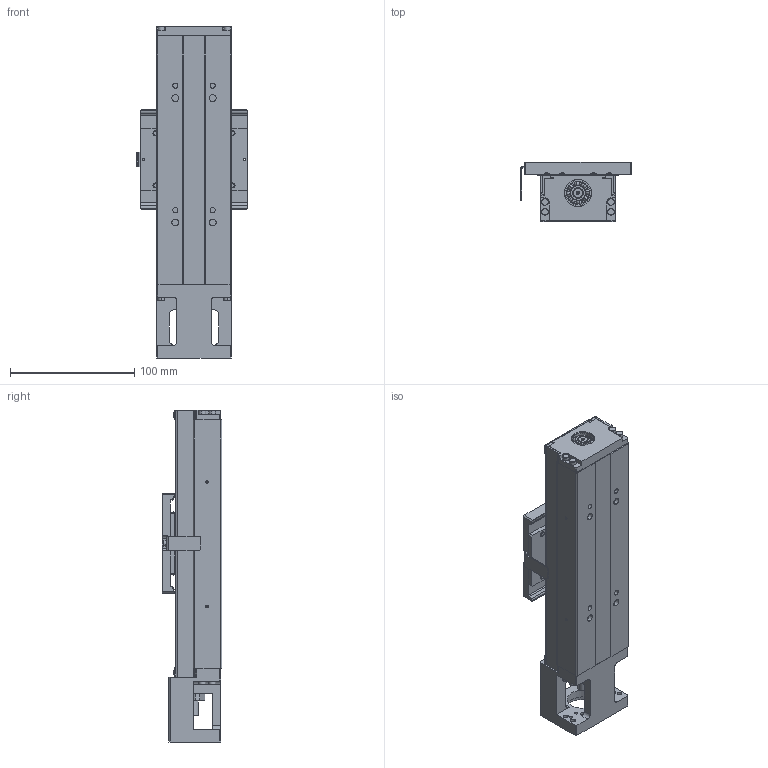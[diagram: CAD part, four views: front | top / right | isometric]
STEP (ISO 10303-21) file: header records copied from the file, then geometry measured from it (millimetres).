
FILE_DESCRIPTION (( 'STEP AP203' ), '1' );
FILE_NAME ('GKAC3360-100-12N-P10-CXXXX-網站用圖.STEP', '2023-04-17T07:35:40', ( '' ), ( '' ), 'SwSTEP 2.0', 'SolidWorks 2019', '' );
FILE_SCHEMA (( 'CONFIG_CONTROL_DESIGN' ));
Length unit declared in the file: millimetre
Products named in the file (3): Group2^GKAC3360-100-12N-P10-CXXXX_defeature_GMT; GKAC3360-100-12N-P10-CXXXX-網站用圖; Group1^GKAC3360-100-12N-P10-CXXXX_defeature_GMT
Assembly tree (2 placements, depth 2):
  GKAC3360-100-12N-P10-CXXXX-網站用圖
    Group1^GKAC3360-100-12N-P10-CXXXX_defeature_GMT
    Group2^GKAC3360-100-12N-P10-CXXXX_defeature_GMT
Bounding box: 89.2 x 48 x 267 mm (x, y, z)
Volume: 391001.1 mm3; surface area: 169790.2 mm2
Topology: 28 solids, 36 shells, 2768 faces, 7218 edges, 4527 vertices
Faces by surface type: plane 1164, cylinder 829, cone 349, torus 225, bspline 137, sphere 64
Entity records: 96031 total; most frequent: CARTESIAN_POINT 28321, ORIENTED_EDGE 14242, DIRECTION 14187, EDGE_CURVE 7121, AXIS2_PLACEMENT_3D 5345, VERTEX_POINT 4508, VECTOR 3497, LINE 3497
